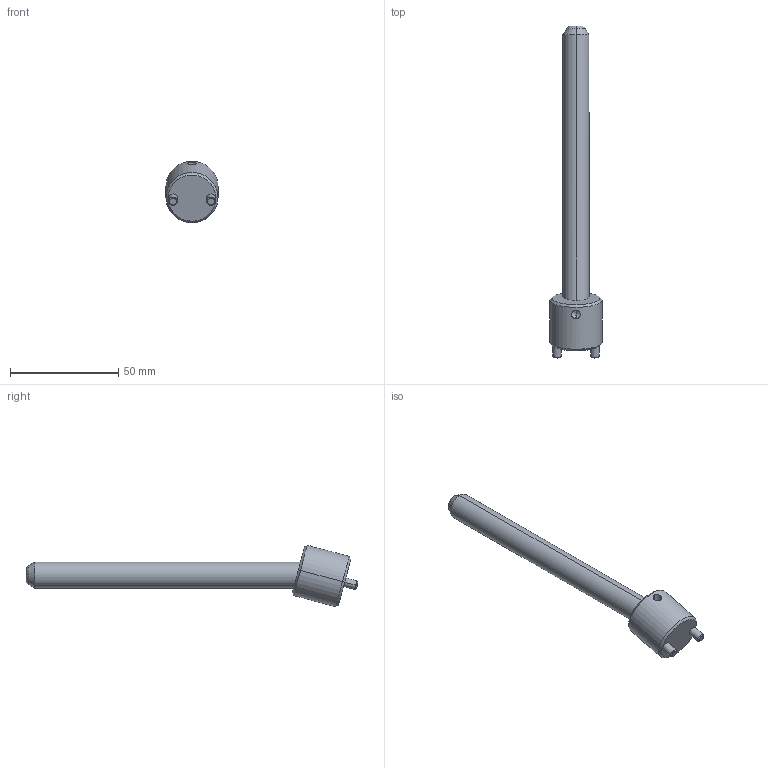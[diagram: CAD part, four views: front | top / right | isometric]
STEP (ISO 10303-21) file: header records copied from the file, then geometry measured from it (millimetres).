
FILE_DESCRIPTION(('CATIA V5 STEP Exchange'),'2;1');
FILE_NAME('C:\Users\Raffaele\Desktop\3D BOLEX\3D FILES CF BOLEX\19-INCLINED ASSEMBLY REF_CI\CI1512125.stp','2019-06-20T13:52:02+00:00',('none'),('none'),'CATIA Version 5 Release 20 GA (IN-10)','CATIA V5 STEP AP203','none');
FILE_SCHEMA(('CONFIG_CONTROL_DESIGN'));
Length unit declared in the file: millimetre
Products named in the file (1): CI1512125
Assembly tree (2 placements, depth 2):
  CI1512125
    #58
    #578
Bounding box: 24 x 153.08 x 28.36 mm (x, y, z)
Volume: 23851.1 mm3; surface area: 8907.3 mm2
Topology: 2 solids, 2 shells, 39 faces, 82 edges, 47 vertices
Faces by surface type: cone 14, cylinder 14, plane 7, torus 4
Entity records: 1458 total; most frequent: CARTESIAN_POINT 599, ORIENTED_EDGE 160, DIRECTION 145, EDGE_CURVE 80, AXIS2_PLACEMENT_3D 72, VERTEX_POINT 47, EDGE_LOOP 43, ADVANCED_FACE 39
